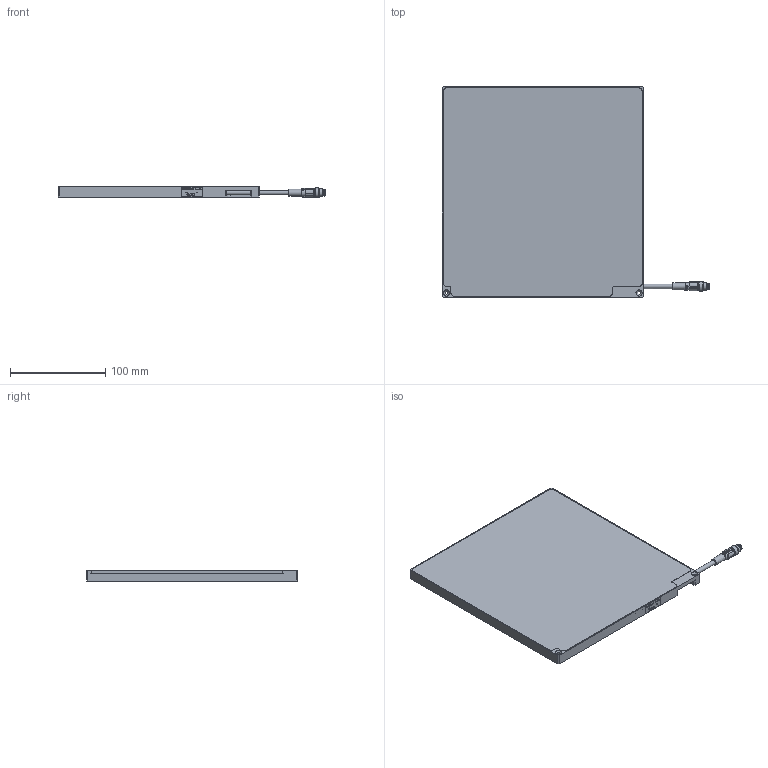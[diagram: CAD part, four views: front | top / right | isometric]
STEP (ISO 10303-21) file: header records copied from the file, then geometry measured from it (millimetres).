
FILE_DESCRIPTION(/* description */ ('Unknown','CAx-IF Rec.Pracs.---Representation and Presentation of Product Manufacturing Information (PMI)---4.0---2014-10-13','CAx-IF Rec.Pracs.---3D Tessellated Geometry---0.4---2014-09-14','2;1'),/* implementation_level */ '2;1');
FILE_NAME(/* name */ '10X.0072_BF200x200',/* time_stamp */ '2021-01-20T10:06:32+01:00',/* author */ ('AW'),/* organization */ ('iiM AG'),/* preprocessor_version */ 'ST-DEVELOPER v16.7',/* originating_system */ 'DEX',/* authorisation */ $);
FILE_SCHEMA (('AP242_MANAGED_MODEL_BASED_3D_ENGINEERING_MIM_LF { 1 0 10303 442 1 1 4 }'));
Length unit declared in the file: millimetre
Products named in the file (1): 10X.0072_BF200x200
Bounding box: 280.7 x 221.15 x 11.5 mm (x, y, z)
Volume: 259309.8 mm3; surface area: 208345.9 mm2
Topology: 2 solids, 2 shells, 366 faces, 934 edges, 621 vertices
Faces by surface type: plane 264, cylinder 78, bspline 19, cone 5
Full cylindrical faces by diameter (mm): 1 x4, 2 x4, 3.242 x4, 4.7 x3, 5.7 x1, 6.35 x1, 8 x2, 9 x1, 9.3 x2, 10 x1
Entity records: 14831 total; most frequent: CARTESIAN_POINT 3767, ORIENTED_EDGE 1786, DIRECTION 1688, EDGE_CURVE 893, LINE 676, VECTOR 676, VERTEX_POINT 611, AXIS2_PLACEMENT_3D 506
